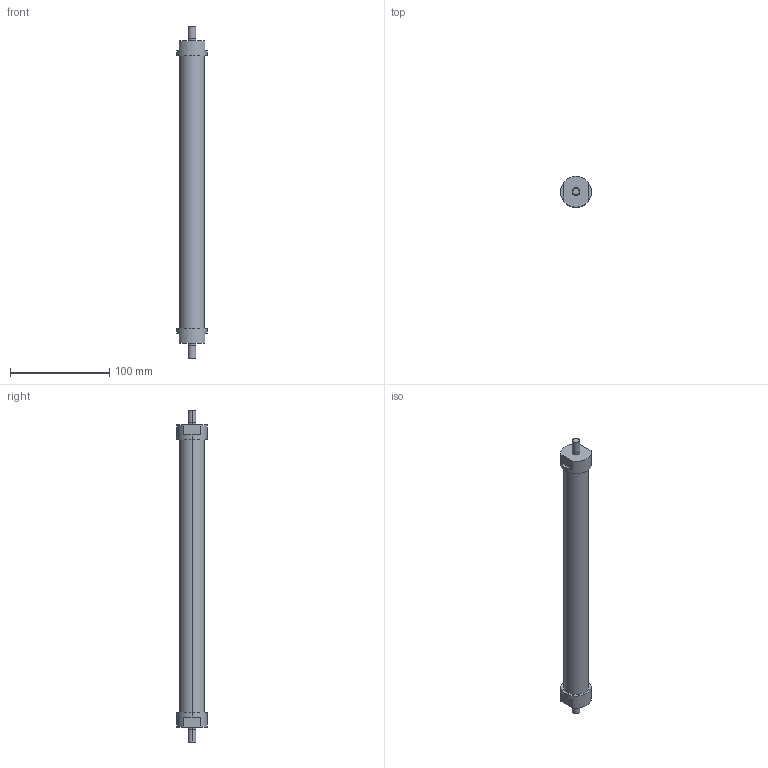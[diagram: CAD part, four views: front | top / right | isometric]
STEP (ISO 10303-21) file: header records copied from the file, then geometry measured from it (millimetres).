
FILE_DESCRIPTION(('STEP AP214'),'1');
FILE_NAME('ETT-R050N314.stp','2015-02-02T15:33:52',(' '),(' '),'Spatial InterOp 3D',' ',' ');
FILE_SCHEMA(('automotive_design'));
Length unit declared in the file: metre
Products named in the file (3): 1; 2; 3
Bounding box: 31 x 31 x 334 mm (x, y, z)
Volume: 157505.5 mm3; surface area: 27747.2 mm2
Topology: 1 solids, 7 shells, 30 faces, 81 edges, 63 vertices
Faces by surface type: plane 16, cylinder 14
Entity records: 1295 total; most frequent: DIRECTION 194, CARTESIAN_POINT 177, ORIENTED_EDGE 138, EDGE_CURVE 81, AXIS2_PLACEMENT_3D 80, VERTEX_POINT 63, CIRCLE 47, EDGE_LOOP 36
